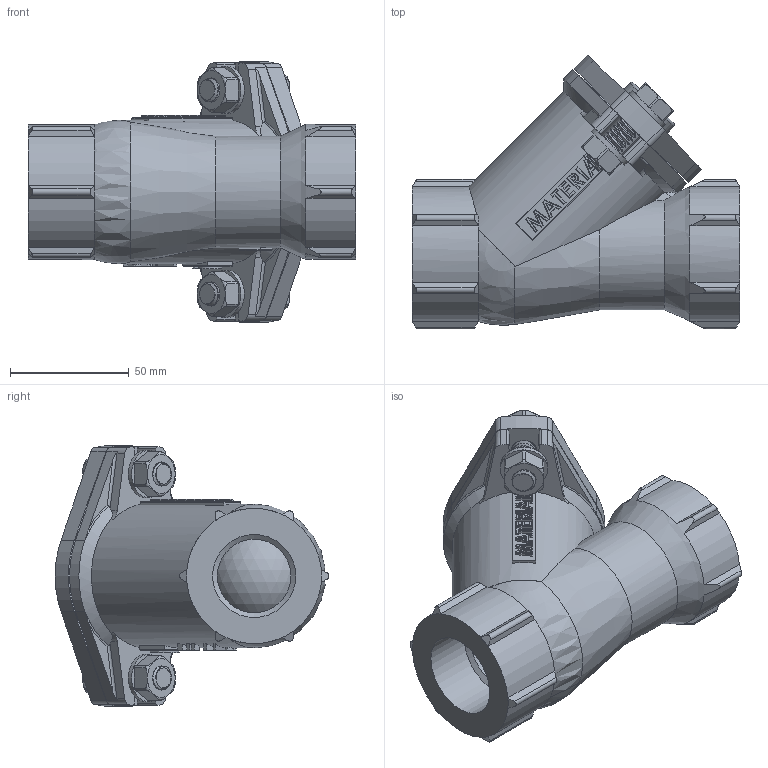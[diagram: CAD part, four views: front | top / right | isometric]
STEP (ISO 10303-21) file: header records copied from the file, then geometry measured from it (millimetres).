
FILE_DESCRIPTION(/* description */ ('Eriks item no: 11812991'),/* implementation_level */ '2;1');
FILE_NAME(/* name */ 'L:\DATA\ENG\Inventor\Econ 3D modellen\terugslagklep\2631\2631-DN32-PN16-NBR-SB.stp',/* time_stamp */ '2022-03-21T10:21:10+01:00',/* author */ ('roger.thijssen'),/* organization */ (''),/* preprocessor_version */ 'ST-DEVELOPER v18',/* originating_system */ 'Autodesk Inventor 2020',/* authorisation */ '');
FILE_SCHEMA (('AUTOMOTIVE_DESIGN { 1 0 10303 214 3 1 1 }'));
Length unit declared in the file: millimetre
Products named in the file (1): Ball check valve, 2631 - 1.1/4" BSPP - PN16 - NBR - SB
Bounding box: 138 x 115.39 x 109.8 mm (x, y, z)
Volume: 322264 mm3; surface area: 95138.7 mm2
Topology: 8 solids, 8 shells, 693 faces, 1806 edges, 1153 vertices
Faces by surface type: cylinder 312, plane 307, torus 31, bspline 21, cone 18, sphere 4
Full cylindrical faces by diameter (mm): 7.835 x32, 10 x34, 10.2 x2, 10.5 x2, 11 x2, 20 x5, 26 x1, 31 x1, 35 x2, 47 x1, 48 x1, 48.5 x1
Entity records: 30315 total; most frequent: CARTESIAN_POINT 13636, ORIENTED_EDGE 3592, DIRECTION 3371, EDGE_CURVE 1796, AXIS2_PLACEMENT_3D 1221, VERTEX_POINT 1153, LINE 929, VECTOR 929
